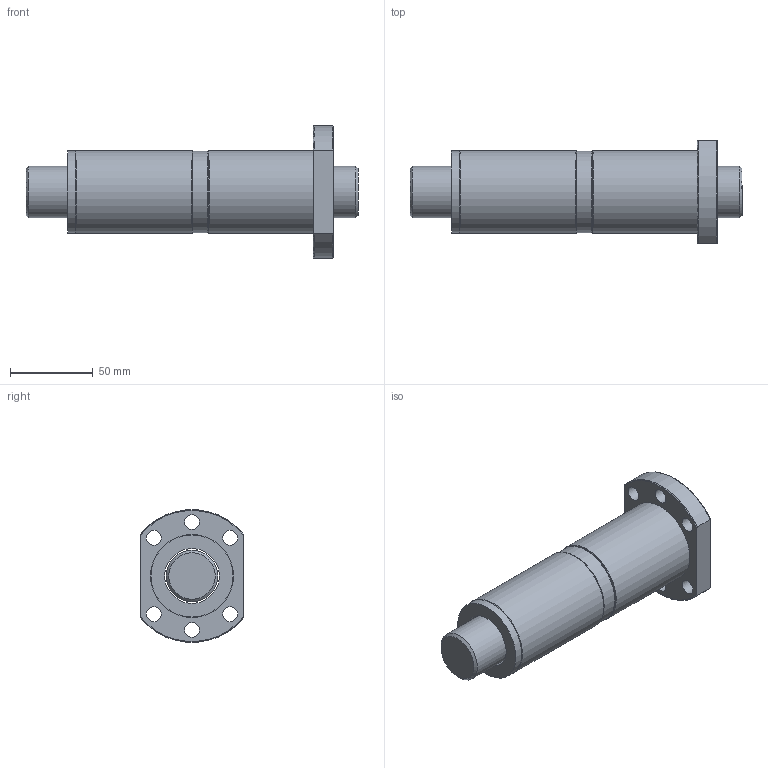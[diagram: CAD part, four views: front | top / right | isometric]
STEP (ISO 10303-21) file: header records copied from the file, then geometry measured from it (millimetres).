
FILE_DESCRIPTION(/* description */ (''),/* implementation_level */ '2;1');
FILE_NAME(/* name */ 'DFS3220',/* time_stamp */ '2007-10-26T13:46:20+08:00',/* author */ (''),/* organization */ (''),/* preprocessor_version */ 'ST-DEVELOPER v9',/* originating_system */ 'UGS - NX 3.0',/* authorisation */ '');
FILE_SCHEMA (('CONFIG_CONTROL_DESIGN'));
Length unit declared in the file: millimetre
Products named in the file (1): jaso15A4i32s
Bounding box: 200 x 62 x 79.74 mm (x, y, z)
Volume: 351754 mm3; surface area: 81813.9 mm2
Topology: 6 solids, 6 shells, 47 faces, 92 edges, 59 vertices
Faces by surface type: cylinder 20, plane 16, torus 9, cone 2
Full cylindrical faces by diameter (mm): 9 x6, 31 x1, 33 x5, 49 x1, 49.5 x3, 50 x2
Entity records: 1344 total; most frequent: CARTESIAN_POINT 318, DIRECTION 206, ORIENTED_EDGE 134, AXIS2_PLACEMENT_3D 99, EDGE_LOOP 96, FACE_BOUND 72, EDGE_CURVE 67, VERTEX_POINT 59
